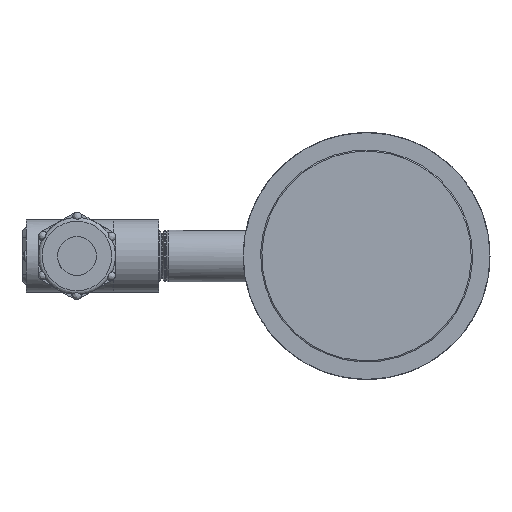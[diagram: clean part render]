
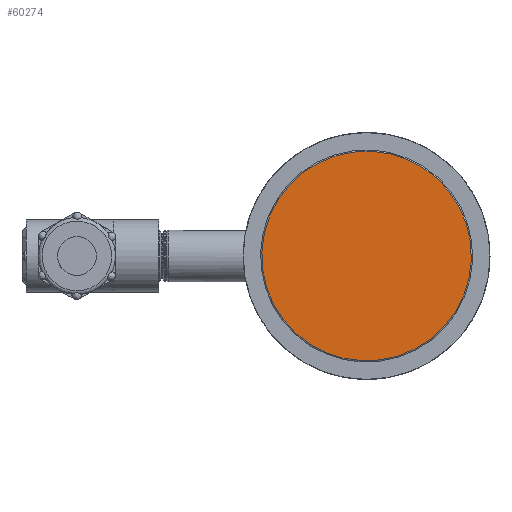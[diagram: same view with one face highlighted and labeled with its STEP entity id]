
A CAD part, left-side view. The second image highlights one B-rep face of the part: STEP entity #60274.
In plain terms, the highlighted planar face has unit normal (-1, 0, 0).
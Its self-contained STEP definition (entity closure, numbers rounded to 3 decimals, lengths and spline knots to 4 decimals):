
#2346 = CARTESIAN_POINT ( 'NONE',  ( 0., 1.5698, 0.6486 ) ) ;
#4738 = EDGE_LOOP ( 'NONE', ( #36623 ) ) ;
#9112 = DIRECTION ( 'NONE',  ( 0., 0.924, 0.382 ) ) ;
#11382 = CARTESIAN_POINT ( 'NONE',  ( 0., 0.6562, -1.5883 ) ) ;
#22681 = DIRECTION ( 'NONE',  ( 0., 0.924, 0.382 ) ) ;
#34357 = PLANE ( 'NONE',  #65860 ) ;
#35987 = DIRECTION ( 'NONE',  ( -1., 0., 0. ) ) ;
#36623 = ORIENTED_EDGE ( 'NONE', *, *, #38550, .T. ) ;
#38550 = EDGE_CURVE ( 'NONE', #50890, #50890, #63903, .T. ) ;
#50890 = VERTEX_POINT ( 'NONE', #2346 ) ;
#60274 = ADVANCED_FACE ( 'NONE', ( #66615 ), #34357, .T. ) ;
#60508 = AXIS2_PLACEMENT_3D ( 'NONE', #62955, #35987, #9112 ) ;
#60594 = DIRECTION ( 'NONE',  ( -1., 0., 0. ) ) ;
#62955 = CARTESIAN_POINT ( 'NONE',  ( 0., 0., 0. ) ) ;
#63903 = CIRCLE ( 'NONE', #60508, 1.6985 ) ;
#65860 = AXIS2_PLACEMENT_3D ( 'NONE', #11382, #60594, #22681 ) ;
#66615 = FACE_OUTER_BOUND ( 'NONE', #4738, .T. ) ;
